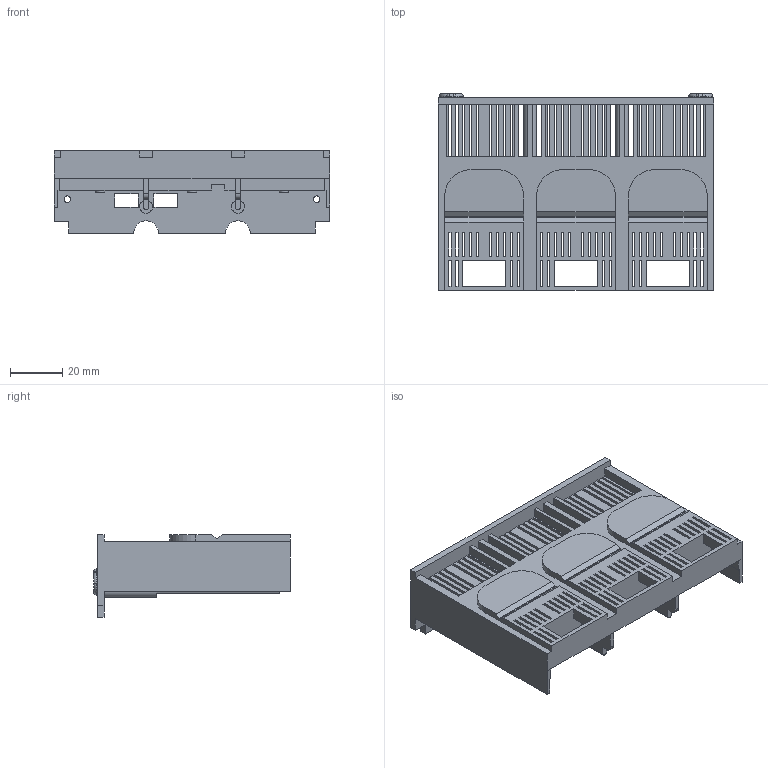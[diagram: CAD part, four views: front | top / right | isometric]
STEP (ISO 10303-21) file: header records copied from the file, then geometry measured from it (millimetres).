
FILE_DESCRIPTION (( 'STEP AP203' ), '1' );
FILE_NAME ('Êðûøêà êëåììíàÿ ÃÆÈÊ.735584.046.STEP', '2017-01-10T06:20:12', ( '1' ), ( '' ), 'SwSTEP 2.0', 'SolidWorks 2012', '' );
FILE_SCHEMA (( 'CONFIG_CONTROL_DESIGN' ));
Length unit declared in the file: millimetre
Products named in the file (1): Êðûøêà êëåììíàÿ ÃÆÈÊ.735584.046
Bounding box: 105 x 75 x 31.5 mm (x, y, z)
Volume: 35491.7 mm3; surface area: 42651.1 mm2
Topology: 1 solids, 1 shells, 621 faces, 1965 edges, 1289 vertices
Faces by surface type: plane 479, cylinder 126, torus 6, cone 6, sphere 4
Entity records: 21829 total; most frequent: CARTESIAN_POINT 3915, ORIENTED_EDGE 3910, DIRECTION 3451, EDGE_CURVE 1955, VECTOR 1689, LINE 1689, VERTEX_POINT 1289, AXIS2_PLACEMENT_3D 881
